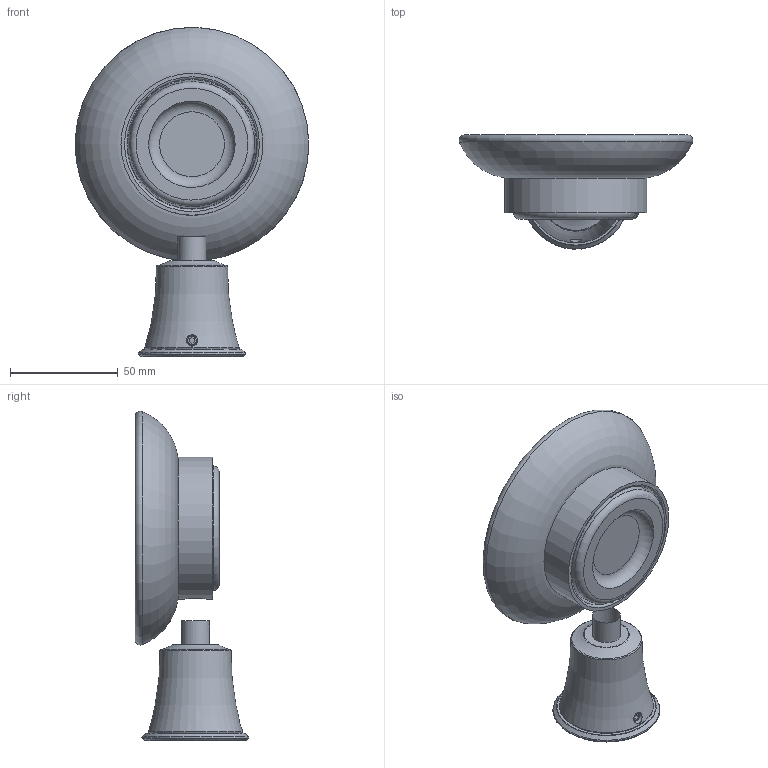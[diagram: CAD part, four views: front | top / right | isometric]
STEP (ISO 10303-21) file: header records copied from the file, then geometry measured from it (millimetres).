
FILE_DESCRIPTION(/* description */ (''),/* implementation_level */ '2;1');
FILE_NAME(/* name */ 'c:\worker\convert-fusion-r05\tmp\job-1\18\output\files\b694f07b-4dd6-4b13-9765-339aa88c0e29\878011a6-112b-4ea6-9513-ad026d127021.stp',/* time_stamp */ '2019-07-10T07:08:14+00:00',/* author */ (''),/* organization */ (''),/* preprocessor_version */ 'ST-DEVELOPER v18',/* originating_system */ 'Autodesk Translation Framework v8.2.0.1029',/* authorisation */ '');
FILE_SCHEMA (('AUTOMOTIVE_DESIGN { 1 0 10303 214 3 1 1 }'));
Length unit declared in the file: millimetre
Products named in the file (1): !AL53420
Bounding box: 108.28 x 52.74 x 152.52 mm (x, y, z)
Volume: 130128.1 mm3; surface area: 47285 mm2
Topology: 4 solids, 4 shells, 50 faces, 147 edges, 109 vertices
Faces by surface type: plane 18, torus 17, cone 8, cylinder 7
Full cylindrical faces by diameter (mm): 5 x1, 5.2 x1, 11.8 x1, 13 x1, 13.2 x1, 60.5 x1, 65.8 x1
Entity records: 1888 total; most frequent: CARTESIAN_POINT 411, DIRECTION 345, ORIENTED_EDGE 292, AXIS2_PLACEMENT_3D 159, EDGE_CURVE 146, VERTEX_POINT 109, CIRCLE 108, EDGE_LOOP 57
